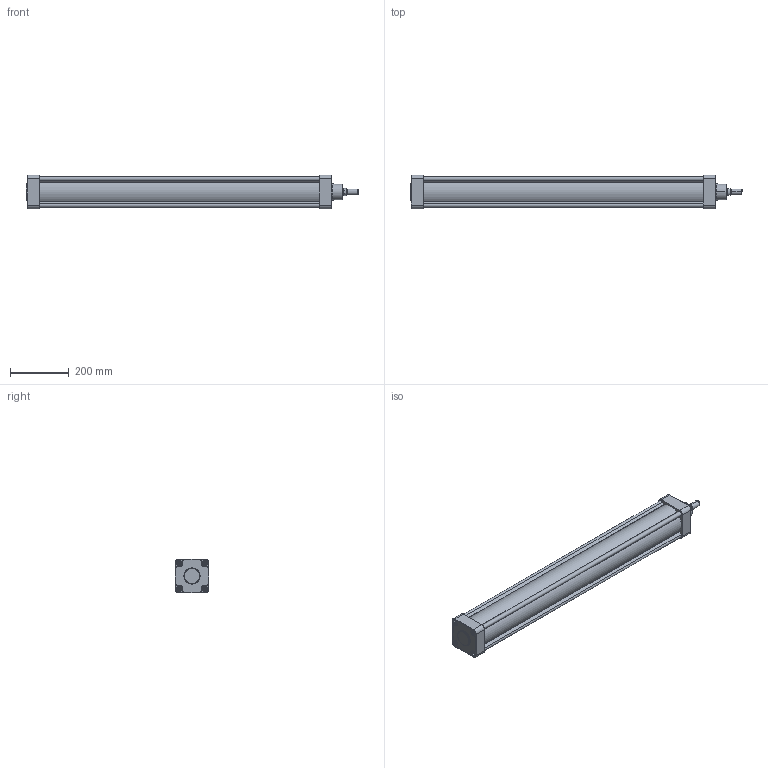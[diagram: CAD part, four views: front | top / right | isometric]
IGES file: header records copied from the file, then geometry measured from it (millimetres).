
Start section: SolidWorks IGES file using analytic representation for surfaces
Global section: file name: K:\Disegni Esecutivi\Cilindri\2_DISEGNI_cilindri_in_produzione\21_Cilindri blue air\1_CILINDRI SERIE BLUE AIR\E\E100\complessivo cilindro E100\complessivo_serie_E100\EH100G\EH01000900G.igs; native system: SolidWorks 2013; preprocessor: SolidWorks 2013; author: Cad01; date: 140505.081644; units: millimetre
Bounding box: 1133.5 x 115 x 115 mm (x, y, z)
Surface area: 653744.8 mm2 (no closed solid volume)
Topology: 0 solids, 0 shells, 432 faces, 4982 edges, 4982 vertices
Faces by surface type: revolution 247, bspline 185
